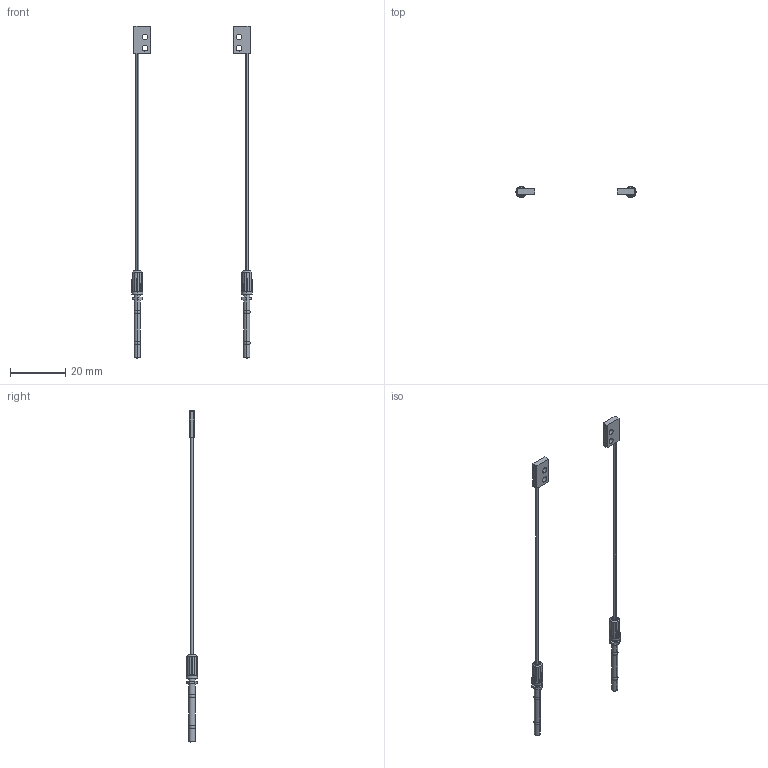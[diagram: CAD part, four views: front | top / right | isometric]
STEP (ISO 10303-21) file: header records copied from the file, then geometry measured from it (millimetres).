
FILE_DESCRIPTION (( 'STEP AP214' ), '1' );
FILE_NAME ('FTFN-210-05R.STEP', '2019-06-18T02:25:16', ( '' ), ( '' ), 'SwSTEP 2.0', 'SolidWorks 2018', '' );
FILE_SCHEMA (( 'AUTOMOTIVE_DESIGN' ));
Length unit declared in the file: millimetre
Products named in the file (1): FTFN-210-05R
Bounding box: 43.6 x 4 x 120 mm (x, y, z)
Volume: 702.5 mm3; surface area: 1888.1 mm2
Topology: 4 solids, 4 shells, 202 faces, 476 edges, 294 vertices
Faces by surface type: plane 118, cylinder 64, torus 12, cone 8
Entity records: 6051 total; most frequent: CARTESIAN_POINT 1261, DIRECTION 970, ORIENTED_EDGE 952, EDGE_CURVE 476, AXIS2_PLACEMENT_3D 387, VERTEX_POINT 294, EDGE_LOOP 226, ADVANCED_FACE 202
